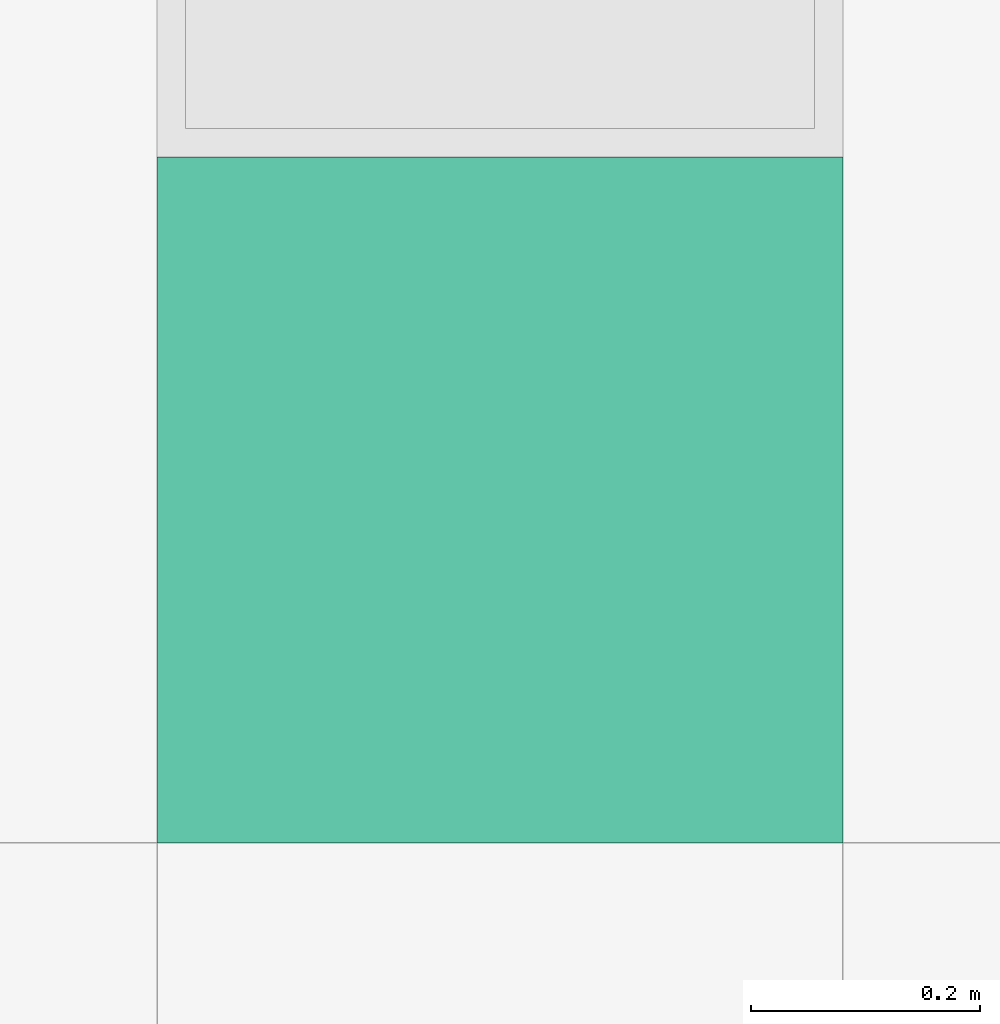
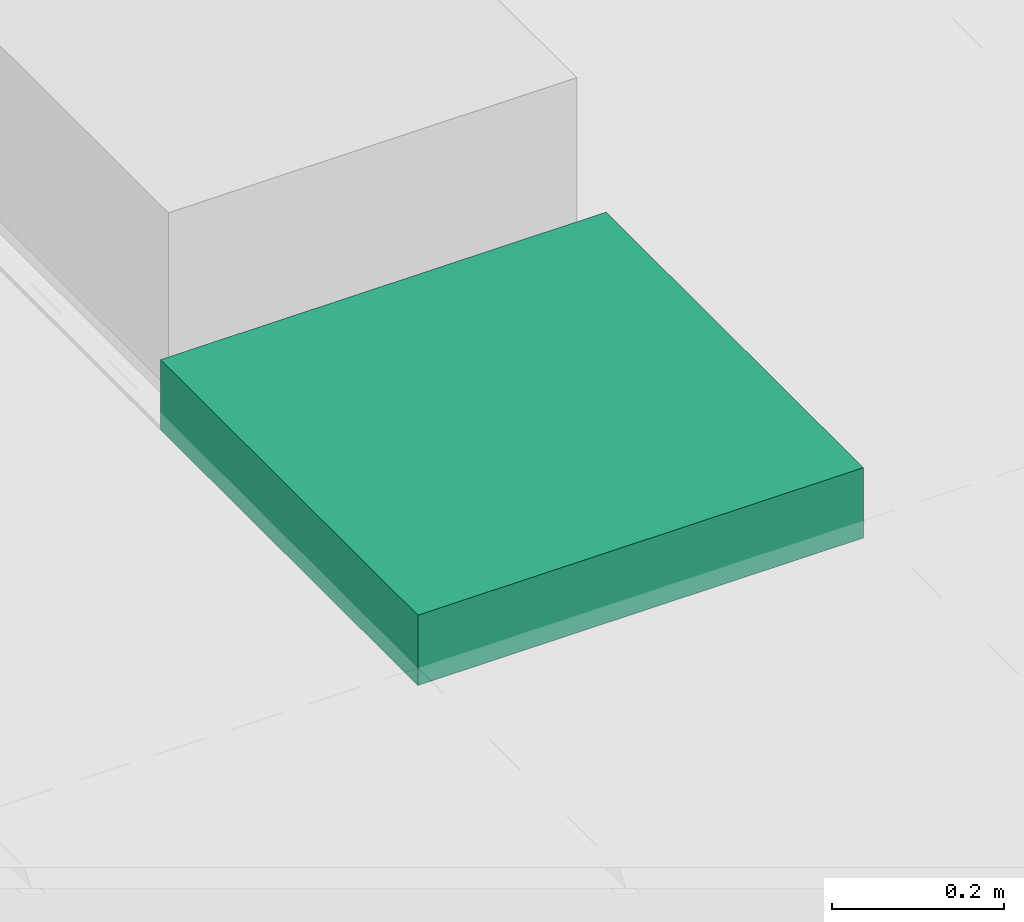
# One storey, part 292 of 347: 1 flow terminal.
"""IFC2X3 building model written with IfcOpenShell, lengths in millimetres."""

from ifc_helpers import new_model, entity, si_unit, converted_unit, derived_unit, money_unit, direction, frame, origin_with_axes, place, context, subcontext, project, spatial, open_shell, faceted_brep, surface_model, source, transform, mapped, type_object, type_shapes, element, save


model = new_model("IFC2X3")

# Units and contexts
model_context = context("Model", 3, precision=0.01, world=origin_with_axes(), true_north=direction((0.0, 1.0)))
plan_context = context("Plan", 3, precision=0.01, world=origin_with_axes(), true_north=direction((0.0, 1.0)))
body_context = subcontext(model_context, "Body", "Model", "MODEL_VIEW")
ifc_project = project(units=[si_unit("LENGTHUNIT", "METRE", prefix="MILLI"), si_unit("AREAUNIT", "SQUARE_METRE"), si_unit("VOLUMEUNIT", "CUBIC_METRE"), converted_unit("PLANEANGLEUNIT", "DEGREE", entity("IfcPlaneAngleMeasure", 0.0174532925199), si_unit("PLANEANGLEUNIT", "RADIAN"), dimensions=[0, 0, 0, 0, 0, 0, 0]), money_unit("EUR"), converted_unit("TIMEUNIT", "Year", entity("IfcTimeMeasure", 31556926.0), si_unit("TIMEUNIT", "SECOND"), dimensions=[0, 0, 1, 0, 0, 0, 0]), si_unit("MASSUNIT", "GRAM", prefix="KILO"), si_unit("THERMODYNAMICTEMPERATUREUNIT", "DEGREE_CELSIUS"), si_unit("LUMINOUSINTENSITYUNIT", "LUMEN"), si_unit("ENERGYUNIT", "JOULE", prefix="MEGA"), derived_unit("THERMALCONDUCTANCEUNIT", [(si_unit("POWERUNIT", "WATT"), 1), (si_unit("LENGTHUNIT", "METRE"), -1), (si_unit("THERMODYNAMICTEMPERATUREUNIT", "KELVIN"), -1)]), derived_unit("SPECIFICHEATCAPACITYUNIT", [(si_unit("ENERGYUNIT", "JOULE"), 1), (si_unit("MASSUNIT", "GRAM", prefix="KILO"), -1), (si_unit("THERMODYNAMICTEMPERATUREUNIT", "KELVIN"), -1)]), derived_unit("MASSDENSITYUNIT", [(si_unit("MASSUNIT", "GRAM", prefix="KILO"), 1), (si_unit("VOLUMEUNIT", "CUBIC_METRE"), -1)])], contexts=[model_context, plan_context])

# Site, building, storey
site_placement = place(None, origin_with_axes())
site = spatial("IfcSite", under=ifc_project, at=site_placement, Name="Site", CompositionType="ELEMENT")
building_placement = place(site_placement, origin_with_axes())
building = spatial("IfcBuilding", under=site, at=building_placement, Name="Naam gebouw", CompositionType="ELEMENT")
storey_placement = place(building_placement, origin_with_axes())
storey = spatial("IfcBuildingStorey", under=building, at=storey_placement, Name="begane grond", CompositionType="ELEMENT", Elevation=0.0)

# Flow terminal
lamp_type = type_object("IfcLampType", Name="TL plafond 25", PredefinedType="NOTDEFINED")
shared_shape = source(origin_with_axes(), body_context, "Body", "SurfaceModel", [
    faceted_brep([(0.0, 0.0, -100.0), (0.0, 0.0, 0.0), (-600.0, 0.0, 0.0), (-600.0, 0.0, -100.0), (0.0, 600.0, -100.0), (0.0, 600.0, 0.0), (-600.0, 600.0, 0.0), (-40.0, 40.0, 0.0), (-560.0, 40.0, 0.0), (-560.0, 560.0, 0.0), (-40.0, 560.0, 0.0), (-600.0, 600.0, -100.0), (-40.0, 40.0, -100.0), (-40.0, 560.0, -100.0), (-560.0, 560.0, -100.0), (-560.0, 40.0, -100.0)], [[[0, 1, 2, 3]], [[4, 5, 1, 0]], [[1, 5, 6, 2], [7, 8, 9, 10]], [[3, 2, 6, 11]], [[0, 3, 11, 4], [12, 13, 14, 15]], [[11, 6, 5, 4]], [[15, 8, 7, 12]], [[14, 9, 8, 15]], [[13, 10, 9, 14]], [[12, 7, 10, 13]]]),
    faceted_brep([(-40.0, 40.0, -16.3333333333), (-40.0, 40.0, 0.0), (-560.0, 40.0, 0.0), (-560.0, 40.0, -16.3333333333), (-40.0, 560.0, -16.3333333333), (-40.0, 560.0, 0.0), (-560.0, 560.0, 0.0), (-560.0, 560.0, -16.3333333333)], [[[0, 1, 2, 3]], [[4, 5, 1, 0]], [[1, 5, 6, 2]], [[3, 2, 6, 7]], [[0, 3, 7, 4]], [[7, 6, 5, 4]]]),
    surface_model("IfcShellBasedSurfaceModel", [(-559.0, 41.0, -100.0), (-559.0, 559.0, -100.0), (-40.0, 559.0, -100.0), (-40.0, 41.0, -100.0)], [open_shell([[[0, 1, 2, 3]]])]),
    faceted_brep([(-40.0, 40.0, -100.0), (-40.0, 40.0, -60.0), (-560.0, 40.0, -60.0), (-560.0, 40.0, -100.0), (-40.0, 560.0, -100.0), (-40.0, 560.0, -60.0), (-560.0, 560.0, -60.0), (-41.0, 41.0, -60.0), (-559.0, 41.0, -60.0), (-559.0, 559.0, -60.0), (-41.0, 559.0, -60.0), (-560.0, 560.0, -100.0), (-41.0, 41.0, -100.0), (-41.0, 559.0, -100.0), (-559.0, 559.0, -100.0), (-559.0, 41.0, -100.0)], [[[0, 1, 2, 3]], [[4, 5, 1, 0]], [[1, 5, 6, 2], [7, 8, 9, 10]], [[3, 2, 6, 11]], [[0, 3, 11, 4], [12, 13, 14, 15]], [[11, 6, 5, 4]], [[15, 8, 7, 12]], [[14, 9, 8, 15]], [[13, 10, 9, 14]], [[12, 7, 10, 13]]]),
    faceted_brep([(-40.0, 144.0, -48.3333333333), (-560.0, 144.0, -48.3333333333), (-560.0, 149.740251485, -47.191526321), (-40.0, 149.740251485, -47.191526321), (-40.0, 138.259748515, -47.191526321), (-560.0, 138.259748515, -47.191526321), (-560.0, 133.393398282, -43.9399350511), (-560.0, 130.141807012, -39.0735848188), (-560.0, 129.0, -33.3333333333), (-560.0, 130.141807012, -27.5930818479), (-560.0, 133.393398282, -22.7267316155), (-560.0, 138.259748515, -19.4751403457), (-560.0, 144.0, -18.3333333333), (-560.0, 149.740251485, -19.4751403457), (-560.0, 154.606601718, -22.7267316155), (-560.0, 157.858192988, -27.5930818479), (-560.0, 159.0, -33.3333333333), (-560.0, 157.858192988, -39.0735848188), (-560.0, 154.606601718, -43.9399350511), (-560.0, 144.0, -46.3333333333), (-560.0, 148.974884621, -45.343767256), (-560.0, 153.192388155, -42.5257214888), (-560.0, 156.010433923, -38.3082179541), (-560.0, 157.0, -33.3333333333), (-560.0, 156.010433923, -28.3584487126), (-560.0, 153.192388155, -24.1409451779), (-560.0, 148.974884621, -21.3228994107), (-560.0, 144.0, -20.3333333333), (-560.0, 139.025115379, -21.3228994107), (-560.0, 134.807611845, -24.1409451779), (-560.0, 131.989566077, -28.3584487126), (-560.0, 131.0, -33.3333333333), (-560.0, 131.989566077, -38.3082179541), (-560.0, 134.807611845, -42.5257214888), (-560.0, 139.025115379, -45.343767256), (-40.0, 154.606601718, -43.9399350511), (-40.0, 157.858192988, -39.0735848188), (-40.0, 159.0, -33.3333333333), (-40.0, 157.858192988, -27.5930818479), (-40.0, 154.606601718, -22.7267316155), (-40.0, 149.740251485, -19.4751403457), (-40.0, 144.0, -18.3333333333), (-40.0, 138.259748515, -19.4751403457), (-40.0, 133.393398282, -22.7267316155), (-40.0, 130.141807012, -27.5930818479), (-40.0, 129.0, -33.3333333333), (-40.0, 130.141807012, -39.0735848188), (-40.0, 133.393398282, -43.9399350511), (-40.0, 144.0, -46.3333333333), (-40.0, 139.025115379, -45.343767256), (-40.0, 134.807611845, -42.5257214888), (-40.0, 131.989566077, -38.3082179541), (-40.0, 131.0, -33.3333333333), (-40.0, 131.989566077, -28.3584487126), (-40.0, 134.807611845, -24.1409451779), (-40.0, 139.025115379, -21.3228994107), (-40.0, 144.0, -20.3333333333), (-40.0, 148.974884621, -21.3228994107), (-40.0, 153.192388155, -24.1409451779), (-40.0, 156.010433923, -28.3584487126), (-40.0, 157.0, -33.3333333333), (-40.0, 156.010433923, -38.3082179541), (-40.0, 153.192388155, -42.5257214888), (-40.0, 148.974884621, -45.343767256)], [[[0, 1, 2, 3]], [[4, 5, 1, 0]], [[1, 5, 6, 7, 8, 9, 10, 11, 12, 13, 14, 15, 16, 17, 18, 2], [19, 20, 21, 22, 23, 24, 25, 26, 27, 28, 29, 30, 31, 32, 33, 34]], [[3, 2, 18, 35]], [[0, 3, 35, 36, 37, 38, 39, 40, 41, 42, 43, 44, 45, 46, 47, 4], [48, 49, 50, 51, 52, 53, 54, 55, 56, 57, 58, 59, 60, 61, 62, 63]], [[47, 6, 5, 4]], [[46, 7, 6, 47]], [[45, 8, 7, 46]], [[44, 9, 8, 45]], [[43, 10, 9, 44]], [[42, 11, 10, 43]], [[41, 12, 11, 42]], [[40, 13, 12, 41]], [[39, 14, 13, 40]], [[38, 15, 14, 39]], [[37, 16, 15, 38]], [[36, 17, 16, 37]], [[35, 18, 17, 36]], [[63, 20, 19, 48]], [[62, 21, 20, 63]], [[61, 22, 21, 62]], [[60, 23, 22, 61]], [[59, 24, 23, 60]], [[58, 25, 24, 59]], [[57, 26, 25, 58]], [[56, 27, 26, 57]], [[55, 28, 27, 56]], [[54, 29, 28, 55]], [[53, 30, 29, 54]], [[52, 31, 30, 53]], [[51, 32, 31, 52]], [[50, 33, 32, 51]], [[49, 34, 33, 50]], [[48, 19, 34, 49]]]),
    faceted_brep([(-40.0, 248.0, -48.3333333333), (-560.0, 248.0, -48.3333333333), (-560.0, 253.740251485, -47.191526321), (-40.0, 253.740251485, -47.191526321), (-40.0, 242.259748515, -47.191526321), (-560.0, 242.259748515, -47.191526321), (-560.0, 237.393398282, -43.9399350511), (-560.0, 234.141807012, -39.0735848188), (-560.0, 233.0, -33.3333333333), (-560.0, 234.141807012, -27.5930818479), (-560.0, 237.393398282, -22.7267316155), (-560.0, 242.259748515, -19.4751403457), (-560.0, 248.0, -18.3333333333), (-560.0, 253.740251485, -19.4751403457), (-560.0, 258.606601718, -22.7267316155), (-560.0, 261.858192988, -27.5930818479), (-560.0, 263.0, -33.3333333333), (-560.0, 261.858192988, -39.0735848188), (-560.0, 258.606601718, -43.9399350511), (-560.0, 248.0, -46.3333333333), (-560.0, 252.974884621, -45.343767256), (-560.0, 257.192388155, -42.5257214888), (-560.0, 260.010433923, -38.3082179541), (-560.0, 261.0, -33.3333333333), (-560.0, 260.010433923, -28.3584487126), (-560.0, 257.192388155, -24.1409451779), (-560.0, 252.974884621, -21.3228994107), (-560.0, 248.0, -20.3333333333), (-560.0, 243.025115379, -21.3228994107), (-560.0, 238.807611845, -24.1409451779), (-560.0, 235.989566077, -28.3584487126), (-560.0, 235.0, -33.3333333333), (-560.0, 235.989566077, -38.3082179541), (-560.0, 238.807611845, -42.5257214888), (-560.0, 243.025115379, -45.343767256), (-40.0, 258.606601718, -43.9399350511), (-40.0, 261.858192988, -39.0735848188), (-40.0, 263.0, -33.3333333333), (-40.0, 261.858192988, -27.5930818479), (-40.0, 258.606601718, -22.7267316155), (-40.0, 253.740251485, -19.4751403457), (-40.0, 248.0, -18.3333333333), (-40.0, 242.259748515, -19.4751403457), (-40.0, 237.393398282, -22.7267316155), (-40.0, 234.141807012, -27.5930818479), (-40.0, 233.0, -33.3333333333), (-40.0, 234.141807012, -39.0735848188), (-40.0, 237.393398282, -43.9399350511), (-40.0, 248.0, -46.3333333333), (-40.0, 243.025115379, -45.343767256), (-40.0, 238.807611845, -42.5257214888), (-40.0, 235.989566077, -38.3082179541), (-40.0, 235.0, -33.3333333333), (-40.0, 235.989566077, -28.3584487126), (-40.0, 238.807611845, -24.1409451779), (-40.0, 243.025115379, -21.3228994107), (-40.0, 248.0, -20.3333333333), (-40.0, 252.974884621, -21.3228994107), (-40.0, 257.192388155, -24.1409451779), (-40.0, 260.010433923, -28.3584487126), (-40.0, 261.0, -33.3333333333), (-40.0, 260.010433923, -38.3082179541), (-40.0, 257.192388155, -42.5257214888), (-40.0, 252.974884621, -45.343767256)], [[[0, 1, 2, 3]], [[4, 5, 1, 0]], [[1, 5, 6, 7, 8, 9, 10, 11, 12, 13, 14, 15, 16, 17, 18, 2], [19, 20, 21, 22, 23, 24, 25, 26, 27, 28, 29, 30, 31, 32, 33, 34]], [[3, 2, 18, 35]], [[0, 3, 35, 36, 37, 38, 39, 40, 41, 42, 43, 44, 45, 46, 47, 4], [48, 49, 50, 51, 52, 53, 54, 55, 56, 57, 58, 59, 60, 61, 62, 63]], [[47, 6, 5, 4]], [[46, 7, 6, 47]], [[45, 8, 7, 46]], [[44, 9, 8, 45]], [[43, 10, 9, 44]], [[42, 11, 10, 43]], [[41, 12, 11, 42]], [[40, 13, 12, 41]], [[39, 14, 13, 40]], [[38, 15, 14, 39]], [[37, 16, 15, 38]], [[36, 17, 16, 37]], [[35, 18, 17, 36]], [[63, 20, 19, 48]], [[62, 21, 20, 63]], [[61, 22, 21, 62]], [[60, 23, 22, 61]], [[59, 24, 23, 60]], [[58, 25, 24, 59]], [[57, 26, 25, 58]], [[56, 27, 26, 57]], [[55, 28, 27, 56]], [[54, 29, 28, 55]], [[53, 30, 29, 54]], [[52, 31, 30, 53]], [[51, 32, 31, 52]], [[50, 33, 32, 51]], [[49, 34, 33, 50]], [[48, 19, 34, 49]]]),
    faceted_brep([(-40.0, 352.0, -48.3333333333), (-560.0, 352.0, -48.3333333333), (-560.0, 357.740251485, -47.191526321), (-40.0, 357.740251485, -47.191526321), (-40.0, 346.259748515, -47.191526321), (-560.0, 346.259748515, -47.191526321), (-560.0, 341.393398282, -43.9399350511), (-560.0, 338.141807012, -39.0735848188), (-560.0, 337.0, -33.3333333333), (-560.0, 338.141807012, -27.5930818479), (-560.0, 341.393398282, -22.7267316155), (-560.0, 346.259748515, -19.4751403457), (-560.0, 352.0, -18.3333333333), (-560.0, 357.740251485, -19.4751403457), (-560.0, 362.606601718, -22.7267316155), (-560.0, 365.858192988, -27.5930818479), (-560.0, 367.0, -33.3333333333), (-560.0, 365.858192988, -39.0735848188), (-560.0, 362.606601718, -43.9399350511), (-560.0, 352.0, -46.3333333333), (-560.0, 356.974884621, -45.343767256), (-560.0, 361.192388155, -42.5257214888), (-560.0, 364.010433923, -38.3082179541), (-560.0, 365.0, -33.3333333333), (-560.0, 364.010433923, -28.3584487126), (-560.0, 361.192388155, -24.1409451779), (-560.0, 356.974884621, -21.3228994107), (-560.0, 352.0, -20.3333333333), (-560.0, 347.025115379, -21.3228994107), (-560.0, 342.807611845, -24.1409451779), (-560.0, 339.989566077, -28.3584487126), (-560.0, 339.0, -33.3333333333), (-560.0, 339.989566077, -38.3082179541), (-560.0, 342.807611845, -42.5257214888), (-560.0, 347.025115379, -45.343767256), (-40.0, 362.606601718, -43.9399350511), (-40.0, 365.858192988, -39.0735848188), (-40.0, 367.0, -33.3333333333), (-40.0, 365.858192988, -27.5930818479), (-40.0, 362.606601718, -22.7267316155), (-40.0, 357.740251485, -19.4751403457), (-40.0, 352.0, -18.3333333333), (-40.0, 346.259748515, -19.4751403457), (-40.0, 341.393398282, -22.7267316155), (-40.0, 338.141807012, -27.5930818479), (-40.0, 337.0, -33.3333333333), (-40.0, 338.141807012, -39.0735848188), (-40.0, 341.393398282, -43.9399350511), (-40.0, 352.0, -46.3333333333), (-40.0, 347.025115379, -45.343767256), (-40.0, 342.807611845, -42.5257214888), (-40.0, 339.989566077, -38.3082179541), (-40.0, 339.0, -33.3333333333), (-40.0, 339.989566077, -28.3584487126), (-40.0, 342.807611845, -24.1409451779), (-40.0, 347.025115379, -21.3228994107), (-40.0, 352.0, -20.3333333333), (-40.0, 356.974884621, -21.3228994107), (-40.0, 361.192388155, -24.1409451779), (-40.0, 364.010433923, -28.3584487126), (-40.0, 365.0, -33.3333333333), (-40.0, 364.010433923, -38.3082179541), (-40.0, 361.192388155, -42.5257214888), (-40.0, 356.974884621, -45.343767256)], [[[0, 1, 2, 3]], [[4, 5, 1, 0]], [[1, 5, 6, 7, 8, 9, 10, 11, 12, 13, 14, 15, 16, 17, 18, 2], [19, 20, 21, 22, 23, 24, 25, 26, 27, 28, 29, 30, 31, 32, 33, 34]], [[3, 2, 18, 35]], [[0, 3, 35, 36, 37, 38, 39, 40, 41, 42, 43, 44, 45, 46, 47, 4], [48, 49, 50, 51, 52, 53, 54, 55, 56, 57, 58, 59, 60, 61, 62, 63]], [[47, 6, 5, 4]], [[46, 7, 6, 47]], [[45, 8, 7, 46]], [[44, 9, 8, 45]], [[43, 10, 9, 44]], [[42, 11, 10, 43]], [[41, 12, 11, 42]], [[40, 13, 12, 41]], [[39, 14, 13, 40]], [[38, 15, 14, 39]], [[37, 16, 15, 38]], [[36, 17, 16, 37]], [[35, 18, 17, 36]], [[63, 20, 19, 48]], [[62, 21, 20, 63]], [[61, 22, 21, 62]], [[60, 23, 22, 61]], [[59, 24, 23, 60]], [[58, 25, 24, 59]], [[57, 26, 25, 58]], [[56, 27, 26, 57]], [[55, 28, 27, 56]], [[54, 29, 28, 55]], [[53, 30, 29, 54]], [[52, 31, 30, 53]], [[51, 32, 31, 52]], [[50, 33, 32, 51]], [[49, 34, 33, 50]], [[48, 19, 34, 49]]]),
    faceted_brep([(-40.0, 456.0, -48.3333333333), (-560.0, 456.0, -48.3333333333), (-560.0, 461.740251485, -47.191526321), (-40.0, 461.740251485, -47.191526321), (-40.0, 450.259748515, -47.191526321), (-560.0, 450.259748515, -47.191526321), (-560.0, 445.393398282, -43.9399350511), (-560.0, 442.141807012, -39.0735848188), (-560.0, 441.0, -33.3333333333), (-560.0, 442.141807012, -27.5930818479), (-560.0, 445.393398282, -22.7267316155), (-560.0, 450.259748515, -19.4751403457), (-560.0, 456.0, -18.3333333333), (-560.0, 461.740251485, -19.4751403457), (-560.0, 466.606601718, -22.7267316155), (-560.0, 469.858192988, -27.5930818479), (-560.0, 471.0, -33.3333333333), (-560.0, 469.858192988, -39.0735848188), (-560.0, 466.606601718, -43.9399350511), (-560.0, 456.0, -46.3333333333), (-560.0, 460.974884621, -45.343767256), (-560.0, 465.192388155, -42.5257214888), (-560.0, 468.010433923, -38.3082179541), (-560.0, 469.0, -33.3333333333), (-560.0, 468.010433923, -28.3584487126), (-560.0, 465.192388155, -24.1409451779), (-560.0, 460.974884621, -21.3228994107), (-560.0, 456.0, -20.3333333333), (-560.0, 451.025115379, -21.3228994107), (-560.0, 446.807611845, -24.1409451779), (-560.0, 443.989566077, -28.3584487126), (-560.0, 443.0, -33.3333333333), (-560.0, 443.989566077, -38.3082179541), (-560.0, 446.807611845, -42.5257214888), (-560.0, 451.025115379, -45.343767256), (-40.0, 466.606601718, -43.9399350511), (-40.0, 469.858192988, -39.0735848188), (-40.0, 471.0, -33.3333333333), (-40.0, 469.858192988, -27.5930818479), (-40.0, 466.606601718, -22.7267316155), (-40.0, 461.740251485, -19.4751403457), (-40.0, 456.0, -18.3333333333), (-40.0, 450.259748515, -19.4751403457), (-40.0, 445.393398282, -22.7267316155), (-40.0, 442.141807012, -27.5930818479), (-40.0, 441.0, -33.3333333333), (-40.0, 442.141807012, -39.0735848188), (-40.0, 445.393398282, -43.9399350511), (-40.0, 456.0, -46.3333333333), (-40.0, 451.025115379, -45.343767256), (-40.0, 446.807611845, -42.5257214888), (-40.0, 443.989566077, -38.3082179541), (-40.0, 443.0, -33.3333333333), (-40.0, 443.989566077, -28.3584487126), (-40.0, 446.807611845, -24.1409451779), (-40.0, 451.025115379, -21.3228994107), (-40.0, 456.0, -20.3333333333), (-40.0, 460.974884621, -21.3228994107), (-40.0, 465.192388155, -24.1409451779), (-40.0, 468.010433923, -28.3584487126), (-40.0, 469.0, -33.3333333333), (-40.0, 468.010433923, -38.3082179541), (-40.0, 465.192388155, -42.5257214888), (-40.0, 460.974884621, -45.343767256)], [[[0, 1, 2, 3]], [[4, 5, 1, 0]], [[1, 5, 6, 7, 8, 9, 10, 11, 12, 13, 14, 15, 16, 17, 18, 2], [19, 20, 21, 22, 23, 24, 25, 26, 27, 28, 29, 30, 31, 32, 33, 34]], [[3, 2, 18, 35]], [[0, 3, 35, 36, 37, 38, 39, 40, 41, 42, 43, 44, 45, 46, 47, 4], [48, 49, 50, 51, 52, 53, 54, 55, 56, 57, 58, 59, 60, 61, 62, 63]], [[47, 6, 5, 4]], [[46, 7, 6, 47]], [[45, 8, 7, 46]], [[44, 9, 8, 45]], [[43, 10, 9, 44]], [[42, 11, 10, 43]], [[41, 12, 11, 42]], [[40, 13, 12, 41]], [[39, 14, 13, 40]], [[38, 15, 14, 39]], [[37, 16, 15, 38]], [[36, 17, 16, 37]], [[35, 18, 17, 36]], [[63, 20, 19, 48]], [[62, 21, 20, 63]], [[61, 22, 21, 62]], [[60, 23, 22, 61]], [[59, 24, 23, 60]], [[58, 25, 24, 59]], [[57, 26, 25, 58]], [[56, 27, 26, 57]], [[55, 28, 27, 56]], [[54, 29, 28, 55]], [[53, 30, 29, 54]], [[52, 31, 30, 53]], [[51, 32, 31, 52]], [[50, 33, 32, 51]], [[49, 34, 33, 50]], [[48, 19, 34, 49]]]),
])
type_shapes(lamp_type, [shared_shape])
flow_terminal_placement = place(storey_placement, frame((52274.9999843, 40590.5, 3295.0), z_axis=(0.0, 0.0, 1.0), x_axis=(1.0, 0.0, 0.0)))
element("IfcFlowTerminal", 1, at=flow_terminal_placement, inside=storey, type_object=lamp_type, Name="63_Lamp-x", ObjectType="Lamp", context=body_context, shape_type="MappedRepresentation", body=[
    mapped(shared_shape, transform((0.0, 0.0, 0.0))),
])

save(model, "model.ifc")
